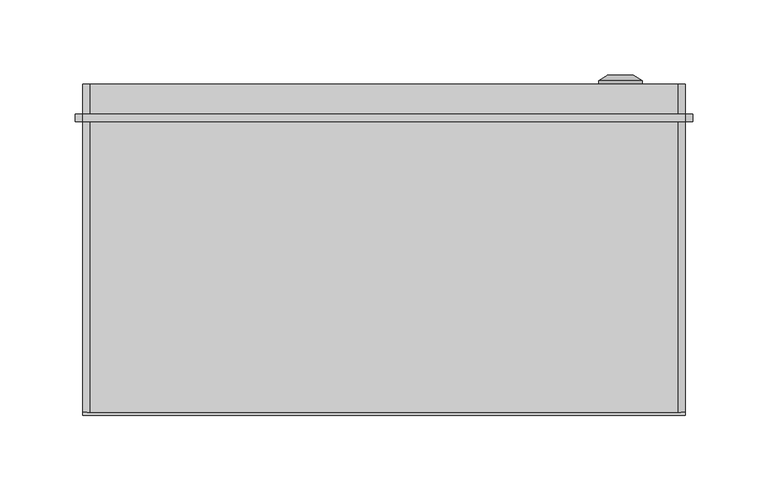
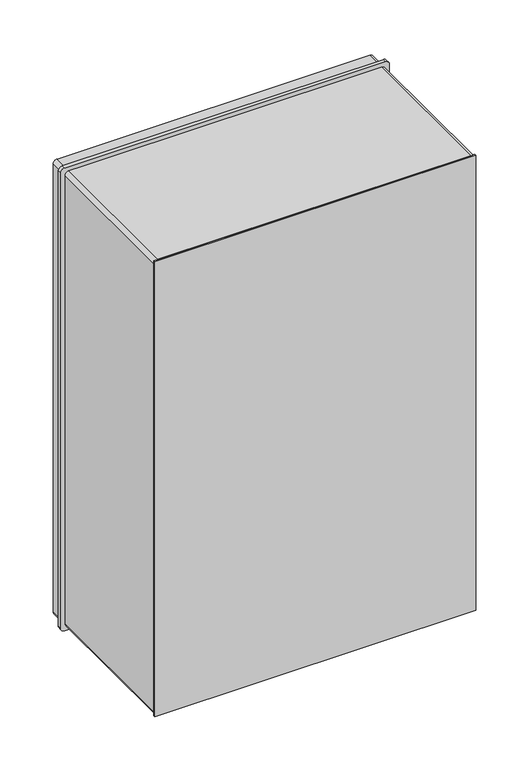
"""IFC4 building model written with IfcOpenShell, lengths in millimetres: proxy geometry, ЩПМП_IP55 : ЩПМП-2-0."""

from ifc_helpers import new_model, si_unit, point, frame, frame_2d, origin, origin_with_axes, place, context, project, spatial, polyline, circle_curve, trimmed, segment, composite_curve, outline, extrude, source, transform, mapped, element, save
from ifc_brep_helpers import plane_surface, cylinder_surface, revolved_surface, advanced_brep


def electrical_equipment_2a2de03e(model_context):
    return source(origin(), model_context, "Body", "SolidModel", [
        advanced_brep(
        [(142.669873, 220.0, 80.0), (171.330127, 220.0, 80.0), (157.0, 220.0, 80.0), (142.669873, 222.366592, 80.0), (171.330127, 222.366592, 80.0), (148.4845412, 226.0, 80.0), (165.5154588, 226.0, 80.0), (154.0610864, 226.0, 80.0), (159.9389136, 226.0, 80.0), (154.0610864, 224.9822294, 80.0), (159.9389136, 224.9822294, 80.0), (157.0, 224.9822294, 80.0)],
        [
            (0, 1, circle_curve(frame((157.0, 220.0, 80.0), z_axis=(0.0, -1.0, 0.0), x_axis=(1.0, 0.0, 0.0)), 14.330127)),
            (1, 2),
            (2, 0),
            (1, 0, circle_curve(frame((157.0, 220.0, 80.0), z_axis=(0.0, -1.0, 0.0), x_axis=(1.0, 0.0, 0.0)), 14.330127)),
            (3, 4, circle_curve(frame((157.0, 222.366592, 80.0), z_axis=(0.0, -1.0, 0.0), x_axis=(1.0, 0.0, 0.0)), 14.330127)),
            (4, 1),
            (0, 3),
            (4, 3, circle_curve(frame((157.0, 222.366592, 80.0), z_axis=(0.0, -1.0, 0.0), x_axis=(1.0, 0.0, 0.0)), 14.330127)),
            (5, 6, circle_curve(frame((157.0, 226.0, 80.0), z_axis=(0.0, -1.0, 0.0), x_axis=(1.0, 0.0, 0.0)), 8.5154588)),
            (6, 4),
            (3, 5),
            (6, 5, circle_curve(frame((157.0, 226.0, 80.0), z_axis=(0.0, -1.0, 0.0), x_axis=(1.0, 0.0, 0.0)), 8.5154588)),
            (7, 8, circle_curve(frame((157.0, 226.0, 80.0), z_axis=(0.0, -1.0, 0.0), x_axis=(1.0, 0.0, 0.0)), 2.9389136)),
            (8, 6),
            (5, 7),
            (8, 7, circle_curve(frame((157.0, 226.0, 80.0), z_axis=(0.0, -1.0, 0.0), x_axis=(1.0, 0.0, 0.0)), 2.9389136)),
            (9, 10, circle_curve(frame((157.0, 224.9822294, 80.0), z_axis=(0.0, -1.0, 0.0), x_axis=(1.0, 0.0, 0.0)), 2.9389136)),
            (10, 8),
            (7, 9),
            (10, 9, circle_curve(frame((157.0, 224.9822294, 80.0), z_axis=(0.0, -1.0, 0.0), x_axis=(1.0, 0.0, 0.0)), 2.9389136)),
            (11, 10),
            (9, 11),
        ],
        [
            plane_surface(frame((157.0, 220.0, 80.0), z_axis=(0.0, -1.0, 0.0), x_axis=(1.0, 0.0, 0.0))),
            cylinder_surface(frame((157.0, 233.1348851, 80.0), z_axis=(0.0, 1.0, 0.0), x_axis=(1.0, 0.0, 0.0)), 14.330127),
            revolved_surface(polyline([(171.330127, 222.366592, 80.0), (165.5154588, 226.0, 80.0)]), (157.0, 233.1348851, 80.0), (0.0, 1.0, 0.0)),
            plane_surface(frame((157.0, 226.0, 80.0), z_axis=(0.0, 1.0, 0.0), x_axis=(1.0, 0.0, 0.0))),
            revolved_surface(polyline([(159.9389136, 226.0, 80.0), (159.9389136, 224.9822294, 80.0)]), (157.0, 233.1348851, 80.0), (0.0, 1.0, 0.0)),
            plane_surface(frame((157.0, 224.9822294, 80.0), z_axis=(0.0, 1.0, 0.0), x_axis=(1.0, 0.0, 0.0))),
        ],
        [
            (0, [[1, 2, 3]]),
            (0, [[4, -3, -2]]),
            (1, [[5, 6, -1, 7]]),
            (1, [[8, -7, -4, -6]]),
            (2, [[9, 10, -5, 11]]),
            (2, [[12, -11, -8, -10]]),
            (3, [[13, 14, -9, 15]]),
            (3, [[16, -15, -12, -14]]),
            (4, [[17, 18, -13, 19]]),
            (4, [[20, -19, -16, -18]]),
            (5, [[21, -17, 22]]),
            (5, [[-22, -20, -21]]),
        ],
    ),
        advanced_brep(
        [(142.669873, 220.0, 525.0), (171.330127, 220.0, 525.0), (157.0, 220.0, 525.0), (142.669873, 222.366592, 525.0), (171.330127, 222.366592, 525.0), (148.4845412, 226.0, 525.0), (165.5154588, 226.0, 525.0), (154.0610864, 226.0, 525.0), (159.9389136, 226.0, 525.0), (154.0610864, 224.9822294, 525.0), (159.9389136, 224.9822294, 525.0), (157.0, 224.9822294, 525.0)],
        [
            (0, 1, circle_curve(frame((157.0, 220.0, 525.0), z_axis=(0.0, -1.0, 0.0), x_axis=(1.0, 0.0, 0.0)), 14.330127)),
            (1, 2),
            (2, 0),
            (1, 0, circle_curve(frame((157.0, 220.0, 525.0), z_axis=(0.0, -1.0, 0.0), x_axis=(1.0, 0.0, 0.0)), 14.330127)),
            (3, 4, circle_curve(frame((157.0, 222.366592, 525.0), z_axis=(0.0, -1.0, 0.0), x_axis=(1.0, 0.0, 0.0)), 14.330127)),
            (4, 1),
            (0, 3),
            (4, 3, circle_curve(frame((157.0, 222.366592, 525.0), z_axis=(0.0, -1.0, 0.0), x_axis=(1.0, 0.0, 0.0)), 14.330127)),
            (5, 6, circle_curve(frame((157.0, 226.0, 525.0), z_axis=(0.0, -1.0, 0.0), x_axis=(1.0, 0.0, 0.0)), 8.5154588)),
            (6, 4),
            (3, 5),
            (6, 5, circle_curve(frame((157.0, 226.0, 525.0), z_axis=(0.0, -1.0, 0.0), x_axis=(1.0, 0.0, 0.0)), 8.5154588)),
            (7, 8, circle_curve(frame((157.0, 226.0, 525.0), z_axis=(0.0, -1.0, 0.0), x_axis=(1.0, 0.0, 0.0)), 2.9389136)),
            (8, 6),
            (5, 7),
            (8, 7, circle_curve(frame((157.0, 226.0, 525.0), z_axis=(0.0, -1.0, 0.0), x_axis=(1.0, 0.0, 0.0)), 2.9389136)),
            (9, 10, circle_curve(frame((157.0, 224.9822294, 525.0), z_axis=(0.0, -1.0, 0.0), x_axis=(1.0, 0.0, 0.0)), 2.9389136)),
            (10, 8),
            (7, 9),
            (10, 9, circle_curve(frame((157.0, 224.9822294, 525.0), z_axis=(0.0, -1.0, 0.0), x_axis=(1.0, 0.0, 0.0)), 2.9389136)),
            (11, 10),
            (9, 11),
        ],
        [
            plane_surface(frame((157.0, 220.0, 525.0), z_axis=(0.0, -1.0, 0.0), x_axis=(1.0, 0.0, 0.0))),
            cylinder_surface(frame((157.0, 233.1348851, 525.0), z_axis=(0.0, 1.0, 0.0), x_axis=(1.0, 0.0, 0.0)), 14.330127),
            revolved_surface(polyline([(171.330127, 222.366592, 525.0), (165.5154588, 226.0, 525.0)]), (157.0, 233.1348851, 525.0), (0.0, 1.0, 0.0)),
            plane_surface(frame((157.0, 226.0, 525.0), z_axis=(0.0, 1.0, 0.0), x_axis=(1.0, 0.0, 0.0))),
            revolved_surface(polyline([(159.9389136, 226.0, 525.0), (159.9389136, 224.9822294, 525.0)]), (157.0, 233.1348851, 525.0), (0.0, 1.0, 0.0)),
            plane_surface(frame((157.0, 224.9822294, 525.0), z_axis=(0.0, 1.0, 0.0), x_axis=(1.0, 0.0, 0.0))),
        ],
        [
            (0, [[1, 2, 3]]),
            (0, [[4, -3, -2]]),
            (1, [[5, 6, -1, 7]]),
            (1, [[8, -7, -4, -6]]),
            (2, [[9, 10, -5, 11]]),
            (2, [[12, -11, -8, -10]]),
            (3, [[13, 14, -9, 15]]),
            (3, [[16, -15, -12, -14]]),
            (4, [[17, 18, -13, 19]]),
            (4, [[20, -19, -16, -18]]),
            (5, [[21, -17, 22]]),
            (5, [[-22, -20, -21]]),
        ],
    ),
        extrude(outline(composite_curve([segment(trimmed(circle_curve(frame_2d((600.0, -200.0)), 5.0), [point((605.0, -200.0))], [point((600.0, -205.0))], False, "CARTESIAN"), True, "CONTINUOUS"), segment(polyline([(600.0, -205.0), (0.0, -205.0)]), True, "CONTINUOUS"), segment(trimmed(circle_curve(frame_2d((0.0, -200.0)), 5.0), [point((0.0, -205.0))], [point((-5.0, -200.0))], False, "CARTESIAN"), True, "CONTINUOUS"), segment(polyline([(-5.0, -200.0), (-5.0, 200.0)]), True, "CONTINUOUS"), segment(trimmed(circle_curve(frame_2d((0.0, 200.0)), 5.0), [point((-5.0, 200.0))], [point((0.0, 205.0))], False, "CARTESIAN"), True, "CONTINUOUS"), segment(polyline([(0.0, 205.0), (600.0, 205.0)]), True, "CONTINUOUS"), segment(trimmed(circle_curve(frame_2d((600.0, 200.0)), 5.0), [point((600.0, 205.0))], [point((605.0, 200.0))], False, "CARTESIAN"), True, "CONTINUOUS"), segment(polyline([(605.0, 200.0), (605.0, -200.0)]), True, "CONTINUOUS")], self_intersect=False)), frame((0.0, 195.0, 0.0), z_axis=(0.0, 1.0, 0.0), x_axis=(0.0, 0.0, 1.0)), (0.0, 0.0, 1.0), 5.0),
        extrude(outline(composite_curve([segment(trimmed(circle_curve(frame_2d((595.0, -195.0)), 5.0), [point((600.0, -195.0))], [point((595.0, -200.0))], False, "CARTESIAN"), True, "CONTINUOUS"), segment(polyline([(595.0, -200.0), (5.0, -200.0)]), True, "CONTINUOUS"), segment(trimmed(circle_curve(frame_2d((5.0, -195.0)), 5.0), [point((5.0, -200.0))], [point((0.0, -195.0))], False, "CARTESIAN"), True, "CONTINUOUS"), segment(polyline([(0.0, -195.0), (0.0, 195.0)]), True, "CONTINUOUS"), segment(trimmed(circle_curve(frame_2d((5.0, 195.0)), 5.0), [point((0.0, 195.0))], [point((5.0, 200.0))], False, "CARTESIAN"), True, "CONTINUOUS"), segment(polyline([(5.0, 200.0), (595.0, 200.0)]), True, "CONTINUOUS"), segment(trimmed(circle_curve(frame_2d((595.0, 195.0)), 5.0), [point((595.0, 200.0))], [point((600.0, 195.0))], False, "CARTESIAN"), True, "CONTINUOUS"), segment(polyline([(600.0, 195.0), (600.0, -195.0)]), True, "CONTINUOUS")], self_intersect=False)), frame((0.0, 200.0, 0.0), z_axis=(0.0, 1.0, 0.0), x_axis=(0.0, 0.0, 1.0)), (0.0, 0.0, 1.0), 20.0),
        extrude(outline(composite_curve([segment(trimmed(circle_curve(frame_2d((595.0, -195.0033905)), 5.0), [point((600.0, -195.0033905))], [point((595.0, -200.0033905))], False, "CARTESIAN"), True, "CONTINUOUS"), segment(polyline([(595.0, -200.0033905), (5.0, -200.0033905)]), True, "CONTINUOUS"), segment(trimmed(circle_curve(frame_2d((5.0, -195.0033905)), 5.0), [point((5.0, -200.0033905))], [point((0.0, -195.0033905))], False, "CARTESIAN"), True, "CONTINUOUS"), segment(polyline([(0.0, -195.0033905), (0.0, 194.9966095)]), True, "CONTINUOUS"), segment(trimmed(circle_curve(frame_2d((5.0, 194.9966095)), 5.0), [point((0.0, 194.9966095))], [point((5.0, 199.9966095))], False, "CARTESIAN"), True, "CONTINUOUS"), segment(polyline([(5.0, 199.9966095), (595.0, 199.9966095)]), True, "CONTINUOUS"), segment(trimmed(circle_curve(frame_2d((595.0, 194.9966095)), 5.0), [point((595.0, 199.9966095))], [point((600.0, 194.9966095))], False, "CARTESIAN"), True, "CONTINUOUS"), segment(polyline([(600.0, 194.9966095), (600.0, -195.0033905)]), True, "CONTINUOUS")], self_intersect=False), holes=[polyline([(565.0, -167.0033905), (565.0, 166.9966095), (35.0, 166.9966095), (35.0, -167.0033905), (565.0, -167.0033905)])]), frame((0.0, 2.0, 0.0), z_axis=(0.0, 1.0, 0.0), x_axis=(0.0, 0.0, 1.0)), (0.0, 0.0, 1.0), 193.0),
        extrude(outline(polyline([(200.0, 0.0), (-200.0, 0.0), (-200.0, 2.0), (200.0, 2.0), (200.0, 0.0)])), origin_with_axes(), (0.0, 0.0, 1.0), 600.0),
    ])


if __name__ == "__main__":
    model = new_model("IFC4")
    model_context = context("Model", 3, world=origin())
    ifc_project = project(units=[si_unit("LENGTHUNIT", "METRE", prefix="MILLI")], contexts=[model_context])
    site = spatial("IfcSite", under=ifc_project)
    building = spatial("IfcBuilding", under=site)
    placement = place(None, origin())
    electrical_equipment_shape = electrical_equipment_2a2de03e(model_context)
    element("IfcBuildingElementProxy", 1, Name="ЩПМП_IP55 : ЩПМП-2-0", ObjectType="ЩПМП_IP55 : ЩПМП-2-0", at=placement, inside=building, context=model_context, shape_type="MappedRepresentation", body=[
        mapped(electrical_equipment_shape, transform((0.0, 0.0, 0.0), x_axis=(1.0, 0.0, 0.0), y_axis=(0.0, 1.0, 0.0), z_axis=(0.0, 0.0, 1.0))),
    ])
    save(model, "model.ifc")
